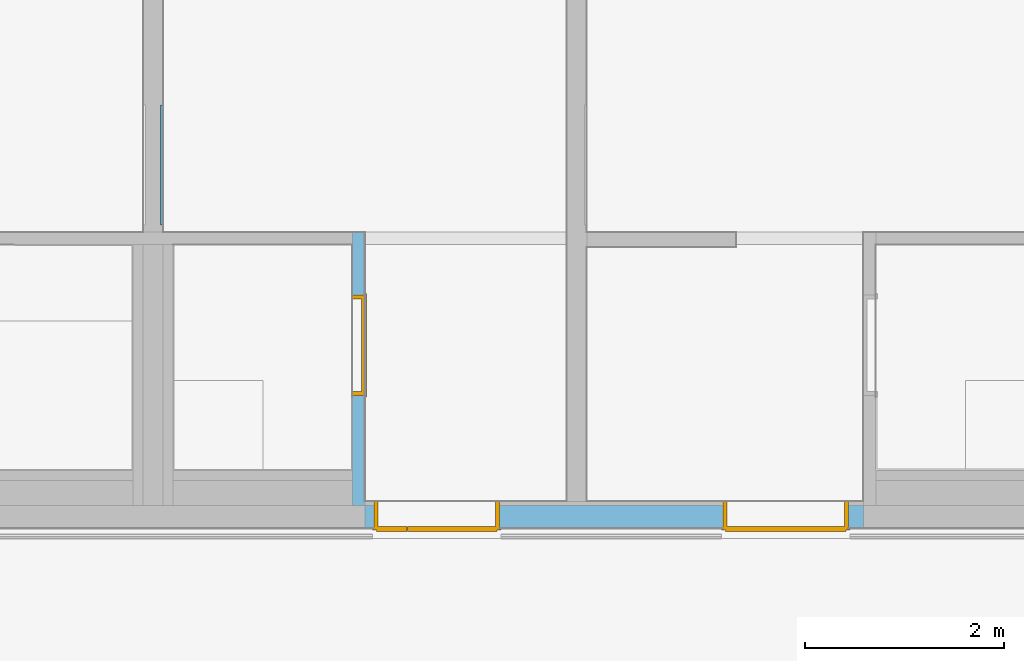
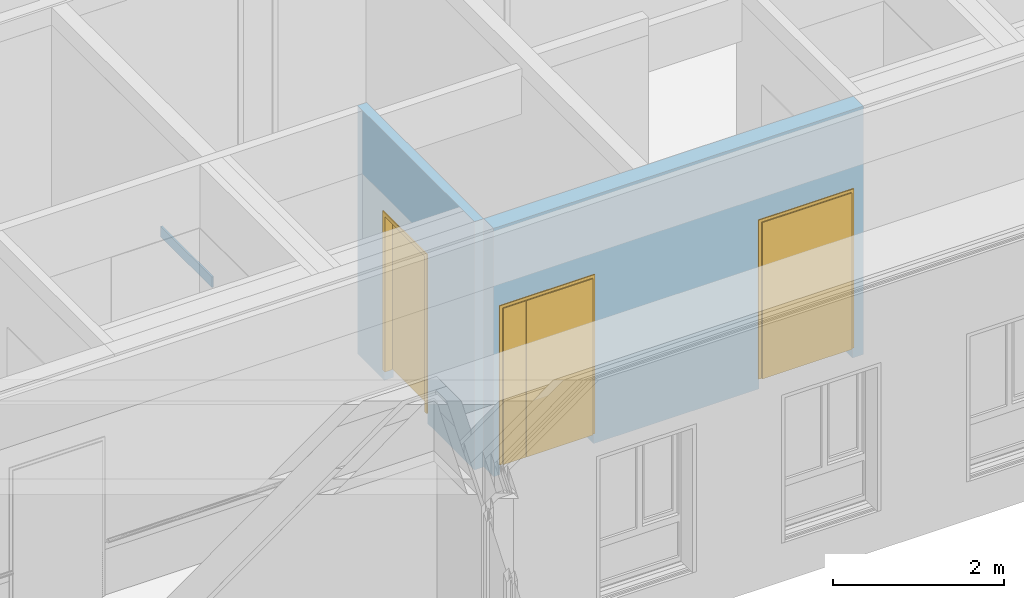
# One storey, part 102 of 222: 3 doors, 1 wall, 3 openings, plus 2 elements that do not belong to this part.
"""IFC4 building model written with IfcOpenShell, lengths in metres."""

from ifc_helpers import new_model, entity, si_unit, converted_unit, derived_unit, frame, frame_2d, origin, origin_with_axes, place, context, subcontext, project, spatial, polyline, rectangle, outline, extrude, faceted_brep, source, transform, mapped, material, type_object, element, fill, save


model = new_model("IFC4")

# Units and contexts
model_context = context("Model", 3, precision=1e-05, world=origin())
body_context = subcontext(model_context, "Body", "Model", "MODEL_VIEW")
ifc_project = project(units=[si_unit("LENGTHUNIT", "METRE"), si_unit("AREAUNIT", "SQUARE_METRE"), si_unit("VOLUMEUNIT", "CUBIC_METRE"), si_unit("MASSUNIT", "GRAM", prefix="KILO"), converted_unit("PLANEANGLEUNIT", "DEGREE", entity("IfcPlaneAngleMeasure", 0.0174532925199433), si_unit("PLANEANGLEUNIT", "RADIAN"), dimensions=[0, 0, 0, 0, 0, 0, 0]), derived_unit("THERMALTRANSMITTANCEUNIT", [(si_unit("POWERUNIT", "WATT"), 1), (si_unit("THERMODYNAMICTEMPERATUREUNIT", "KELVIN"), -1), (si_unit("LENGTHUNIT", "METRE"), -2)]), derived_unit("VOLUMETRICFLOWRATEUNIT", [(si_unit("LENGTHUNIT", "METRE"), 3), (converted_unit("TIMEUNIT", "hour", entity("IfcTimeMeasure", 3600.0), si_unit("TIMEUNIT", "SECOND"), dimensions=[0, 0, 1, 0, 0, 0, 0]), -1), (si_unit("LENGTHUNIT", "METRE"), -1)])], contexts=[model_context])

# Site, building, storey
site_placement = place(None, origin())
site = spatial("IfcSite", under=ifc_project, at=site_placement, Name="Psychiatrie Neubau Wunstorf", CompositionType="ELEMENT")
building_placement = place(site_placement, origin())
building = spatial("IfcBuilding", under=site, at=building_placement, Name="Neubau H2 Stationsgebäude", CompositionType="ELEMENT")
storey_placement = place(building_placement, frame((0.0, 0.0, 3.6)))
storey = spatial("IfcBuildingStorey", under=building, at=storey_placement, Name="H2 Ebene +1", CompositionType="ELEMENT", Elevation=3.6)

# Wall, opening, door
ifc_material_1 = material(Name="WI-LB")
wall_1_placement = place(storey_placement, frame((17.875, 24.3495, 0.0), z_axis=(0.0, 0.0, 1.0), x_axis=(0.0, 1.0, 0.0)))
wall_1 = element("IfcWall", 1, at=wall_1_placement, inside=storey, material=ifc_material_1, context=body_context, shape_type="SweptSolid", body=[
    extrude(rectangle(XDim=2.73999999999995, YDim=0.125, at=frame_2d((1.36999999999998, 0.0625), x_axis=(1.0, 0.0))), origin_with_axes(), (0.0, 0.0, 1.0), 3.55),
])
opening_1_placement = place(wall_1_placement, frame((2.11150366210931, 0.125, 0.0), z_axis=(0.0, -1.0, 0.0), x_axis=(0.0, 0.0, 1.0)))
opening_1 = element("IfcOpeningElement", 2, at=opening_1_placement, cuts=wall_1, Name="Türöffnung", ObjectType="Opening", context=body_context, shape_type="SweptSolid", body=[
    extrude(outline(polyline([(2.41, 1.01), (2.41, 0.0), (0.0, 0.0), (0.0, 1.01), (2.41, 1.01)])), origin_with_axes(), (0.0, 0.0, 1.0), 0.125),
])
ifc_material_2 = material(Name="TI-1F-UZ-D-N")
door_type_1 = type_object("IfcDoorType", Name="SMT", OperationType="SINGLE_SWING_RIGHT", ParameterTakesPrecedence=False, PredefinedType="DOOR")
shared_shape_1 = source(origin_with_axes(), body_context, "Body", "Brep", [
    faceted_brep([(-0.0399999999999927, 0.0124999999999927, 0.0), (0.0, 0.0124999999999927, 0.0), (0.0, 0.112499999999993, 0.0), (-0.0399999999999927, 0.112499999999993, 0.0), (-0.0399999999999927, 0.112499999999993, 3.55), (0.0, 0.112499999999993, 3.55), (0.0, 0.0124999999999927, 3.55), (-0.0399999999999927, 0.0124999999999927, 3.55)], [[[0, 1, 2, 3]], [[4, 5, 6, 7]], [[3, 4, 7, 0]], [[2, 5, 4, 3]], [[1, 6, 5, 2]], [[0, 7, 6, 1]]], orient=[[False], [False], [False], [False], [False], [False]]),
    faceted_brep([(1.01000000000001, 0.0124999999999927, 0.0), (1.05000000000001, 0.0124999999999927, 0.0), (1.05000000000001, 0.112499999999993, 0.0), (1.01000000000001, 0.112499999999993, 0.0), (1.01000000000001, 0.112499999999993, 3.55), (1.05000000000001, 0.112499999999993, 3.55), (1.05000000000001, 0.0124999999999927, 3.55), (1.01000000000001, 0.0124999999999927, 3.55)], [[[0, 1, 2, 3]], [[4, 5, 6, 7]], [[3, 4, 7, 0]], [[2, 5, 4, 3]], [[1, 6, 5, 2]], [[0, 7, 6, 1]]], orient=[[False], [False], [False], [False], [False], [False]]),
    faceted_brep([(0.0, 0.0124999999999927, 2.41), (1.01000000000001, 0.0124999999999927, 2.41), (1.01000000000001, 0.112499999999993, 2.41), (0.0, 0.112499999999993, 2.41), (0.0, 0.112499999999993, 2.45), (1.01000000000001, 0.112499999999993, 2.45), (1.01000000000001, 0.0124999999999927, 2.45), (0.0, 0.0124999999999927, 2.45)], [[[0, 1, 2, 3]], [[4, 5, 6, 7]], [[3, 4, 7, 0]], [[2, 5, 4, 3]], [[1, 6, 5, 2]], [[0, 7, 6, 1]]], orient=[[False], [False], [False], [False], [False], [False]]),
])
shared_shape_2 = source(origin_with_axes(), body_context, "Body", "Brep", [
    faceted_brep([(1.01000000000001, -0.0150000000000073, 2.41), (1.01000000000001, -0.0150000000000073, 0.15), (0.970000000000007, -0.0150000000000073, 0.15), (0.970000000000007, -0.0150000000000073, 2.41), (1.01000000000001, 0.139999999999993, 0.15), (1.01000000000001, 0.139999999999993, 2.41), (0.970000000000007, 0.139999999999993, 2.41), (0.970000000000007, 0.139999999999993, 0.15)], [[[0, 1, 2, 3]], [[4, 5, 6, 7]], [[1, 0, 5, 4]], [[2, 1, 4, 7]], [[3, 2, 7, 6]], [[0, 3, 6, 5]]], orient=[[False], [False], [False], [False], [False], [False]]),
    faceted_brep([(1.01000000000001, -0.0150000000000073, 2.425), (1.02500000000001, -0.0150000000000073, 2.425), (1.02500000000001, -0.0150000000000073, 0.15), (1.01000000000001, -0.0150000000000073, 0.15), (1.01000000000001, 0.0, 0.15), (1.02500000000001, 0.0, 0.15), (1.02500000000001, 0.0, 2.425), (1.01000000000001, 0.0, 2.425)], [[[0, 1, 2, 3]], [[4, 5, 6, 7]], [[3, 4, 7, 0]], [[2, 5, 4, 3]], [[1, 6, 5, 2]], [[0, 7, 6, 1]]], orient=[[False], [False], [False], [False], [False], [False]]),
    faceted_brep([(1.01000000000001, 0.124999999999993, 2.425), (1.02500000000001, 0.124999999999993, 2.425), (1.02500000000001, 0.124999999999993, 0.15), (1.01000000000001, 0.124999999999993, 0.15), (1.01000000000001, 0.139999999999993, 0.15), (1.02500000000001, 0.139999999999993, 0.15), (1.02500000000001, 0.139999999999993, 2.425), (1.01000000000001, 0.139999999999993, 2.425)], [[[0, 1, 2, 3]], [[4, 5, 6, 7]], [[3, 4, 7, 0]], [[2, 5, 4, 3]], [[1, 6, 5, 2]], [[0, 7, 6, 1]]], orient=[[False], [False], [False], [False], [False], [False]]),
    faceted_brep([(0.0400000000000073, -0.0150000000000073, 2.41), (0.0400000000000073, -0.0150000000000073, 0.15), (0.0, -0.0150000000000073, 0.15), (0.0, -0.0150000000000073, 2.41), (0.0400000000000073, 0.139999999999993, 0.15), (0.0400000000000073, 0.139999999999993, 2.41), (0.0, 0.139999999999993, 2.41), (0.0, 0.139999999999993, 0.15)], [[[0, 1, 2, 3]], [[4, 5, 6, 7]], [[1, 0, 5, 4]], [[2, 1, 4, 7]], [[3, 2, 7, 6]], [[0, 3, 6, 5]]], orient=[[False], [False], [False], [False], [False], [False]]),
    faceted_brep([(0.0, -0.0150000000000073, 2.425), (0.0, -0.0150000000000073, 0.15), (-0.0149999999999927, -0.0150000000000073, 0.15), (-0.0149999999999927, -0.0150000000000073, 2.425), (0.0, 0.0, 0.15), (0.0, 0.0, 2.425), (-0.0149999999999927, 0.0, 2.425), (-0.0149999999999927, 0.0, 0.15)], [[[0, 1, 2, 3]], [[4, 5, 6, 7]], [[1, 0, 5, 4]], [[2, 1, 4, 7]], [[3, 2, 7, 6]], [[0, 3, 6, 5]]], orient=[[False], [False], [False], [False], [False], [False]]),
    faceted_brep([(0.0, 0.124999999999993, 2.425), (0.0, 0.124999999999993, 0.15), (-0.0149999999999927, 0.124999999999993, 0.15), (-0.0149999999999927, 0.124999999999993, 2.425), (0.0, 0.139999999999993, 0.15), (0.0, 0.139999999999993, 2.425), (-0.0149999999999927, 0.139999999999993, 2.425), (-0.0149999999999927, 0.139999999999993, 0.15)], [[[0, 1, 2, 3]], [[4, 5, 6, 7]], [[1, 0, 5, 4]], [[2, 1, 4, 7]], [[3, 2, 7, 6]], [[0, 3, 6, 5]]], orient=[[False], [False], [False], [False], [False], [False]]),
    faceted_brep([(0.970000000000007, -0.0150000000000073, 2.41), (0.970000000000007, -0.0150000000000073, 2.37), (0.0400000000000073, -0.0150000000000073, 2.37), (0.0400000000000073, -0.0150000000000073, 2.41), (0.970000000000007, 0.139999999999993, 2.37), (0.970000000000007, 0.139999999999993, 2.41), (0.0400000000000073, 0.139999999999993, 2.41), (0.0400000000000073, 0.139999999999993, 2.37)], [[[0, 1, 2, 3]], [[4, 5, 6, 7]], [[1, 0, 5, 4]], [[2, 1, 4, 7]], [[3, 2, 7, 6]], [[0, 3, 6, 5]]], orient=[[False], [False], [False], [False], [False], [False]]),
    faceted_brep([(1.01000000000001, -0.0150000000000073, 2.425), (1.01000000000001, -0.0150000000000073, 2.41), (0.0, -0.0150000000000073, 2.41), (0.0, -0.0150000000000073, 2.425), (1.01000000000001, 0.0, 2.41), (1.01000000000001, 0.0, 2.425), (0.0, 0.0, 2.425), (0.0, 0.0, 2.41)], [[[0, 1, 2, 3]], [[4, 5, 6, 7]], [[1, 0, 5, 4]], [[2, 1, 4, 7]], [[3, 2, 7, 6]], [[0, 3, 6, 5]]], orient=[[False], [False], [False], [False], [False], [False]]),
    faceted_brep([(1.01000000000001, 0.124999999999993, 2.425), (1.01000000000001, 0.124999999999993, 2.41), (0.0, 0.124999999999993, 2.41), (0.0, 0.124999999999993, 2.425), (1.01000000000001, 0.139999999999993, 2.41), (1.01000000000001, 0.139999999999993, 2.425), (0.0, 0.139999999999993, 2.425), (0.0, 0.139999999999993, 2.41)], [[[0, 1, 2, 3]], [[4, 5, 6, 7]], [[1, 0, 5, 4]], [[2, 1, 4, 7]], [[3, 2, 7, 6]], [[0, 3, 6, 5]]], orient=[[False], [False], [False], [False], [False], [False]]),
    faceted_brep([(0.985000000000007, 0.0909999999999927, 2.385), (0.985000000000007, 0.0909999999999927, 0.15), (0.0250000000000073, 0.0909999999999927, 0.15), (0.0250000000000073, 0.0909999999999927, 2.385), (0.985000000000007, 0.140999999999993, 0.15), (0.985000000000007, 0.140999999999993, 2.385), (0.0250000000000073, 0.140999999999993, 2.385), (0.0250000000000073, 0.140999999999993, 0.15)], [[[0, 1, 2, 3]], [[4, 5, 6, 7]], [[1, 0, 5, 4]], [[2, 1, 4, 7]], [[3, 2, 7, 6]], [[0, 3, 6, 5]]], orient=[[False], [False], [False], [False], [False], [False]]),
])
door_1_placement = place(opening_1_placement, frame((0.0, 0.0, 0.0), z_axis=(1.0, 0.0, 0.0), x_axis=(0.0, 1.0, 0.0)))
door_1 = element("IfcDoor", 3, at=door_1_placement, inside=storey, type_object=door_type_1, material=ifc_material_2, Name="SMT", OverallHeight=2.41, OverallWidth=1.01, context=body_context, shape_type="MappedRepresentation", body=[
    mapped(shared_shape_1, transform((0.0, 0.0, 0.0), x_axis=(1.0, 0.0, 0.0), y_axis=(0.0, 1.0, 0.0), z_axis=(0.0, 0.0, 1.0), scale=1.0)),
    mapped(shared_shape_2, transform((0.0, 0.0, 0.0), x_axis=(1.0, 0.0, 0.0), y_axis=(0.0, 1.0, 0.0), z_axis=(0.0, 0.0, 1.0), scale=1.0)),
])
fill(opening_1, door_1)

# Wall, openings, doors
ifc_material_3 = material(Name="WI-HW 60")
wall_2_placement = place(storey_placement, frame((17.875, 24.1175, 0.0), z_axis=(0.0, 0.0, 1.0), x_axis=(1.0, -7.27595761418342e-16, 0.0)))
wall_2 = element("IfcWall", 4, at=wall_2_placement, inside=storey, material=ifc_material_3, context=body_context, shape_type="SweptSolid", body=[
    extrude(rectangle(XDim=5.0, YDim=0.232, at=frame_2d((2.5, 0.116), x_axis=(1.0, 0.0))), origin_with_axes(), (0.0, 0.0, 1.0), 3.55),
])
opening_2_placement = place(wall_2_placement, frame((0.0899999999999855, 0.0, 0.0), z_axis=(-7.35044209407e-16, 1.0, 0.0), x_axis=(0.0, 0.0, 1.0)))
opening_2 = element("IfcOpeningElement", 5, at=opening_2_placement, cuts=wall_2, Name="Türöffnung", ObjectType="Opening", context=body_context, shape_type="SweptSolid", body=[
    extrude(outline(polyline([(2.41, 1.26), (2.41, 0.0), (0.0, 0.0), (0.0, 1.26), (2.41, 1.26)])), origin_with_axes(), (0.0, 0.0, 1.0), 0.232),
])
opening_3_placement = place(wall_2_placement, frame((3.58999999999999, 0.0, 0.0), z_axis=(0.0, 1.0, 0.0), x_axis=(0.0, 0.0, 1.0)))
opening_3 = element("IfcOpeningElement", 6, at=opening_3_placement, cuts=wall_2, Name="Türöffnung", ObjectType="Opening", context=body_context, shape_type="SweptSolid", body=[
    extrude(outline(polyline([(2.41, 1.26), (2.41, 0.0), (0.0, 0.0), (0.0, 1.26), (2.41, 1.26)])), origin_with_axes(), (0.0, 0.0, 1.0), 0.232),
])
ifc_material_4 = material(Name="TI-2F-UZ-D")
door_type_2 = type_object("IfcDoorType", Name="SMT", OperationType="DOUBLE_DOOR_SINGLE_SWING", ParameterTakesPrecedence=False, PredefinedType="DOOR")
shared_shape_3 = source(origin_with_axes(), body_context, "Body", "Brep", [
    faceted_brep([(0.0, -0.0150000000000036, 2.41), (0.04, -0.0150000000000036, 2.41), (0.04, -0.0150000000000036, 0.15), (0.0, -0.0150000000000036, 0.15), (0.0, 0.286999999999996, 0.15), (0.04, 0.286999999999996, 0.15), (0.04, 0.286999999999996, 2.41), (0.0, 0.286999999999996, 2.41)], [[[0, 1, 2, 3]], [[4, 5, 6, 7]], [[3, 4, 7, 0]], [[2, 5, 4, 3]], [[1, 6, 5, 2]], [[0, 7, 6, 1]]], orient=[[False], [False], [False], [False], [False], [False]]),
    faceted_brep([(0.0, -0.0150000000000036, 2.425), (0.0, -0.0150000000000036, 0.15), (-0.015, -0.0150000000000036, 0.15), (-0.015, -0.0150000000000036, 2.425), (0.0, 0.0, 0.15), (0.0, 0.0, 2.425), (-0.015, 0.0, 2.425), (-0.015, 0.0, 0.15)], [[[0, 1, 2, 3]], [[4, 5, 6, 7]], [[1, 0, 5, 4]], [[2, 1, 4, 7]], [[3, 2, 7, 6]], [[0, 3, 6, 5]]], orient=[[False], [False], [False], [False], [False], [False]]),
    faceted_brep([(0.0, 0.271999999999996, 2.425), (0.0, 0.271999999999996, 0.15), (-0.015, 0.271999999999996, 0.15), (-0.015, 0.271999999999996, 2.425), (0.0, 0.286999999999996, 0.15), (0.0, 0.286999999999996, 2.425), (-0.015, 0.286999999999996, 2.425), (-0.015, 0.286999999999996, 0.15)], [[[0, 1, 2, 3]], [[4, 5, 6, 7]], [[1, 0, 5, 4]], [[2, 1, 4, 7]], [[3, 2, 7, 6]], [[0, 3, 6, 5]]], orient=[[False], [False], [False], [False], [False], [False]]),
    faceted_brep([(1.22, -0.0150000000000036, 2.41), (1.26, -0.0150000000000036, 2.41), (1.26, -0.0150000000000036, 0.15), (1.22, -0.0150000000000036, 0.15), (1.22, 0.286999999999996, 0.15), (1.26, 0.286999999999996, 0.15), (1.26, 0.286999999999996, 2.41), (1.22, 0.286999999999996, 2.41)], [[[0, 1, 2, 3]], [[4, 5, 6, 7]], [[3, 4, 7, 0]], [[2, 5, 4, 3]], [[1, 6, 5, 2]], [[0, 7, 6, 1]]], orient=[[False], [False], [False], [False], [False], [False]]),
    faceted_brep([(1.26, -0.0150000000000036, 2.425), (1.275, -0.0150000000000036, 2.425), (1.275, -0.0150000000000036, 0.15), (1.26, -0.0150000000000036, 0.15), (1.26, 0.0, 0.15), (1.275, 0.0, 0.15), (1.275, 0.0, 2.425), (1.26, 0.0, 2.425)], [[[0, 1, 2, 3]], [[4, 5, 6, 7]], [[3, 4, 7, 0]], [[2, 5, 4, 3]], [[1, 6, 5, 2]], [[0, 7, 6, 1]]], orient=[[False], [False], [False], [False], [False], [False]]),
    faceted_brep([(1.26, 0.271999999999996, 2.425), (1.275, 0.271999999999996, 2.425), (1.275, 0.271999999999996, 0.15), (1.26, 0.271999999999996, 0.15), (1.26, 0.286999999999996, 0.15), (1.275, 0.286999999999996, 0.15), (1.275, 0.286999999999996, 2.425), (1.26, 0.286999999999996, 2.425)], [[[0, 1, 2, 3]], [[4, 5, 6, 7]], [[3, 4, 7, 0]], [[2, 5, 4, 3]], [[1, 6, 5, 2]], [[0, 7, 6, 1]]], orient=[[False], [False], [False], [False], [False], [False]]),
    faceted_brep([(0.04, -0.0150000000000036, 2.41), (1.22, -0.0150000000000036, 2.41), (1.22, -0.0150000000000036, 2.37), (0.04, -0.0150000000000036, 2.37), (0.04, 0.286999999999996, 2.37), (1.22, 0.286999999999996, 2.37), (1.22, 0.286999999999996, 2.41), (0.04, 0.286999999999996, 2.41)], [[[0, 1, 2, 3]], [[4, 5, 6, 7]], [[3, 4, 7, 0]], [[2, 5, 4, 3]], [[1, 6, 5, 2]], [[0, 7, 6, 1]]], orient=[[False], [False], [False], [False], [False], [False]]),
    faceted_brep([(0.0, -0.0150000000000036, 2.425), (1.26, -0.0150000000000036, 2.425), (1.26, -0.0150000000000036, 2.41), (0.0, -0.0150000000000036, 2.41), (0.0, 0.0, 2.41), (1.26, 0.0, 2.41), (1.26, 0.0, 2.425), (0.0, 0.0, 2.425)], [[[0, 1, 2, 3]], [[4, 5, 6, 7]], [[3, 4, 7, 0]], [[2, 5, 4, 3]], [[1, 6, 5, 2]], [[0, 7, 6, 1]]], orient=[[False], [False], [False], [False], [False], [False]]),
    faceted_brep([(0.0, 0.271999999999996, 2.425), (1.26, 0.271999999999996, 2.425), (1.26, 0.271999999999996, 2.41), (0.0, 0.271999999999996, 2.41), (0.0, 0.286999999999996, 2.41), (1.26, 0.286999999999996, 2.41), (1.26, 0.286999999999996, 2.425), (0.0, 0.286999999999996, 2.425)], [[[0, 1, 2, 3]], [[4, 5, 6, 7]], [[3, 4, 7, 0]], [[2, 5, 4, 3]], [[1, 6, 5, 2]], [[0, 7, 6, 1]]], orient=[[False], [False], [False], [False], [False], [False]]),
    faceted_brep([(0.025, 0.251999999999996, 2.385), (0.925, 0.251999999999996, 2.385), (0.925, 0.251999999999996, 0.15), (0.025, 0.251999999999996, 0.15), (0.025, 0.301999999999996, 0.15), (0.925, 0.301999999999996, 0.15), (0.925, 0.301999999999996, 2.385), (0.025, 0.301999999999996, 2.385)], [[[0, 1, 2, 3]], [[4, 5, 6, 7]], [[3, 4, 7, 0]], [[2, 5, 4, 3]], [[1, 6, 5, 2]], [[0, 7, 6, 1]]], orient=[[False], [False], [False], [False], [False], [False]]),
    faceted_brep([(0.926, 0.251999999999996, 2.385), (1.235, 0.251999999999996, 2.385), (1.235, 0.251999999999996, 0.15), (0.926, 0.251999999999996, 0.15), (0.926, 0.301999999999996, 0.15), (1.235, 0.301999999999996, 0.15), (1.235, 0.301999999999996, 2.385), (0.926, 0.301999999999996, 2.385)], [[[0, 1, 2, 3]], [[4, 5, 6, 7]], [[3, 4, 7, 0]], [[2, 5, 4, 3]], [[1, 6, 5, 2]], [[0, 7, 6, 1]]], orient=[[False], [False], [False], [False], [False], [False]]),
])
door_2_placement = place(opening_2_placement, frame((0.0, 1.26, 0.271999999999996), z_axis=(1.0, 0.0, 0.0), x_axis=(0.0, -1.0, 7.44844798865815e-18)))
door_2 = element("IfcDoor", 7, at=door_2_placement, inside=storey, type_object=door_type_2, material=ifc_material_4, Name="SMT", OverallHeight=2.41, OverallWidth=1.26, context=body_context, shape_type="MappedRepresentation", body=[
    mapped(shared_shape_3, transform((0.0, 0.0, 0.0), x_axis=(1.0, 0.0, 0.0), y_axis=(0.0, 1.0, 0.0), z_axis=(0.0, 0.0, 1.0), scale=1.0)),
])
fill(opening_2, door_2)
ifc_material_5 = material(Name="TI-2F-UZ-D")
door_type_3 = type_object("IfcDoorType", Name="SMT", OperationType="DOUBLE_DOOR_SINGLE_SWING", ParameterTakesPrecedence=False, PredefinedType="DOOR")
shared_shape_4 = source(origin_with_axes(), body_context, "Body", "Brep", [
    faceted_brep([(1.26, -0.0150000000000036, 2.41), (1.26, -0.0150000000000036, 0.15), (1.22, -0.0150000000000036, 0.15), (1.22, -0.0150000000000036, 2.41), (1.26, 0.286999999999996, 0.15), (1.26, 0.286999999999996, 2.41), (1.22, 0.286999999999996, 2.41), (1.22, 0.286999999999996, 0.15)], [[[0, 1, 2, 3]], [[4, 5, 6, 7]], [[1, 0, 5, 4]], [[2, 1, 4, 7]], [[3, 2, 7, 6]], [[0, 3, 6, 5]]], orient=[[False], [False], [False], [False], [False], [False]]),
    faceted_brep([(1.26, -0.0150000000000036, 2.425), (1.275, -0.0150000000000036, 2.425), (1.275, -0.0150000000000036, 0.15), (1.26, -0.0150000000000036, 0.15), (1.26, 0.0, 0.15), (1.275, 0.0, 0.15), (1.275, 0.0, 2.425), (1.26, 0.0, 2.425)], [[[0, 1, 2, 3]], [[4, 5, 6, 7]], [[3, 4, 7, 0]], [[2, 5, 4, 3]], [[1, 6, 5, 2]], [[0, 7, 6, 1]]], orient=[[False], [False], [False], [False], [False], [False]]),
    faceted_brep([(1.26, 0.271999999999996, 2.425), (1.275, 0.271999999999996, 2.425), (1.275, 0.271999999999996, 0.15), (1.26, 0.271999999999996, 0.15), (1.26, 0.286999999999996, 0.15), (1.275, 0.286999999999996, 0.15), (1.275, 0.286999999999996, 2.425), (1.26, 0.286999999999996, 2.425)], [[[0, 1, 2, 3]], [[4, 5, 6, 7]], [[3, 4, 7, 0]], [[2, 5, 4, 3]], [[1, 6, 5, 2]], [[0, 7, 6, 1]]], orient=[[False], [False], [False], [False], [False], [False]]),
    faceted_brep([(0.04, -0.0150000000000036, 2.41), (0.04, -0.0150000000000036, 0.15), (0.0, -0.0150000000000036, 0.15), (0.0, -0.0150000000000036, 2.41), (0.04, 0.286999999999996, 0.15), (0.04, 0.286999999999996, 2.41), (0.0, 0.286999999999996, 2.41), (0.0, 0.286999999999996, 0.15)], [[[0, 1, 2, 3]], [[4, 5, 6, 7]], [[1, 0, 5, 4]], [[2, 1, 4, 7]], [[3, 2, 7, 6]], [[0, 3, 6, 5]]], orient=[[False], [False], [False], [False], [False], [False]]),
    faceted_brep([(0.0, -0.0150000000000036, 2.425), (0.0, -0.0150000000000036, 0.15), (-0.015, -0.0150000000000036, 0.15), (-0.015, -0.0150000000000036, 2.425), (0.0, 0.0, 0.15), (0.0, 0.0, 2.425), (-0.015, 0.0, 2.425), (-0.015, 0.0, 0.15)], [[[0, 1, 2, 3]], [[4, 5, 6, 7]], [[1, 0, 5, 4]], [[2, 1, 4, 7]], [[3, 2, 7, 6]], [[0, 3, 6, 5]]], orient=[[False], [False], [False], [False], [False], [False]]),
    faceted_brep([(0.0, 0.271999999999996, 2.425), (0.0, 0.271999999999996, 0.15), (-0.015, 0.271999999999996, 0.15), (-0.015, 0.271999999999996, 2.425), (0.0, 0.286999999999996, 0.15), (0.0, 0.286999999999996, 2.425), (-0.015, 0.286999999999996, 2.425), (-0.015, 0.286999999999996, 0.15)], [[[0, 1, 2, 3]], [[4, 5, 6, 7]], [[1, 0, 5, 4]], [[2, 1, 4, 7]], [[3, 2, 7, 6]], [[0, 3, 6, 5]]], orient=[[False], [False], [False], [False], [False], [False]]),
    faceted_brep([(1.22, -0.0150000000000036, 2.41), (1.22, -0.0150000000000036, 2.37), (0.04, -0.0150000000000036, 2.37), (0.04, -0.0150000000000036, 2.41), (1.22, 0.286999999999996, 2.37), (1.22, 0.286999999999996, 2.41), (0.04, 0.286999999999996, 2.41), (0.04, 0.286999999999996, 2.37)], [[[0, 1, 2, 3]], [[4, 5, 6, 7]], [[1, 0, 5, 4]], [[2, 1, 4, 7]], [[3, 2, 7, 6]], [[0, 3, 6, 5]]], orient=[[False], [False], [False], [False], [False], [False]]),
    faceted_brep([(1.26, -0.0150000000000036, 2.425), (1.26, -0.0150000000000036, 2.41), (0.0, -0.0150000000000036, 2.41), (0.0, -0.0150000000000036, 2.425), (1.26, 0.0, 2.41), (1.26, 0.0, 2.425), (0.0, 0.0, 2.425), (0.0, 0.0, 2.41)], [[[0, 1, 2, 3]], [[4, 5, 6, 7]], [[1, 0, 5, 4]], [[2, 1, 4, 7]], [[3, 2, 7, 6]], [[0, 3, 6, 5]]], orient=[[False], [False], [False], [False], [False], [False]]),
    faceted_brep([(1.26, 0.271999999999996, 2.425), (1.26, 0.271999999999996, 2.41), (0.0, 0.271999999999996, 2.41), (0.0, 0.271999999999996, 2.425), (1.26, 0.286999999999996, 2.41), (1.26, 0.286999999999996, 2.425), (0.0, 0.286999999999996, 2.425), (0.0, 0.286999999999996, 2.41)], [[[0, 1, 2, 3]], [[4, 5, 6, 7]], [[1, 0, 5, 4]], [[2, 1, 4, 7]], [[3, 2, 7, 6]], [[0, 3, 6, 5]]], orient=[[False], [False], [False], [False], [False], [False]]),
    faceted_brep([(1.235, 0.251999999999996, 2.385), (1.235, 0.251999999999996, 0.15), (0.335, 0.251999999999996, 0.15), (0.335, 0.251999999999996, 2.385), (1.235, 0.301999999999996, 0.15), (1.235, 0.301999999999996, 2.385), (0.335, 0.301999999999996, 2.385), (0.335, 0.301999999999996, 0.15)], [[[0, 1, 2, 3]], [[4, 5, 6, 7]], [[1, 0, 5, 4]], [[2, 1, 4, 7]], [[3, 2, 7, 6]], [[0, 3, 6, 5]]], orient=[[False], [False], [False], [False], [False], [False]]),
    faceted_brep([(0.334, 0.251999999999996, 2.385), (0.334, 0.251999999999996, 0.15), (0.025, 0.251999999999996, 0.15), (0.025, 0.251999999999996, 2.385), (0.334, 0.301999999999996, 0.15), (0.334, 0.301999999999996, 2.385), (0.025, 0.301999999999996, 2.385), (0.025, 0.301999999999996, 0.15)], [[[0, 1, 2, 3]], [[4, 5, 6, 7]], [[1, 0, 5, 4]], [[2, 1, 4, 7]], [[3, 2, 7, 6]], [[0, 3, 6, 5]]], orient=[[False], [False], [False], [False], [False], [False]]),
])
door_3_placement = place(opening_3_placement, frame((0.0, 1.26, 0.272), z_axis=(1.0, 0.0, 0.0), x_axis=(0.0, -1.0, -7.27595761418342e-16)))
door_3 = element("IfcDoor", 8, at=door_3_placement, inside=storey, type_object=door_type_3, material=ifc_material_5, Name="SMT", OverallHeight=2.41, OverallWidth=1.26, context=body_context, shape_type="MappedRepresentation", body=[
    mapped(shared_shape_4, transform((0.0, 0.0, 0.0), x_axis=(1.0, 0.0, 0.0), y_axis=(0.0, 1.0, 0.0), z_axis=(0.0, 0.0, 1.0), scale=1.0)),
])
fill(opening_3, door_3)

# Wall
wall_3_placement = place(storey_placement, frame((15.825, 27.1628367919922, 1.575)))
element("IfcWall", 9, at=wall_3_placement, inside=storey, Name="WV 1.1", context=body_context, shape_type="Brep", body=[
    faceted_brep([(0.025, 1.2, 0.0), (0.0, 1.2, 0.0), (0.0, 0.0, 0.0), (0.025, 0.0, 0.0), (0.0, 1.2, 0.15), (0.025, 1.2, 0.15), (0.025, 0.0, 0.15), (0.0, 0.0, 0.15)], [[[0, 1, 2, 3]], [[4, 5, 6, 7]], [[1, 0, 5, 4]], [[2, 1, 4, 7]], [[3, 2, 7, 6]], [[0, 3, 6, 5]]], orient=[[False], [False], [False], [False], [False], [False]]),
])

save(model, "model.ifc")
